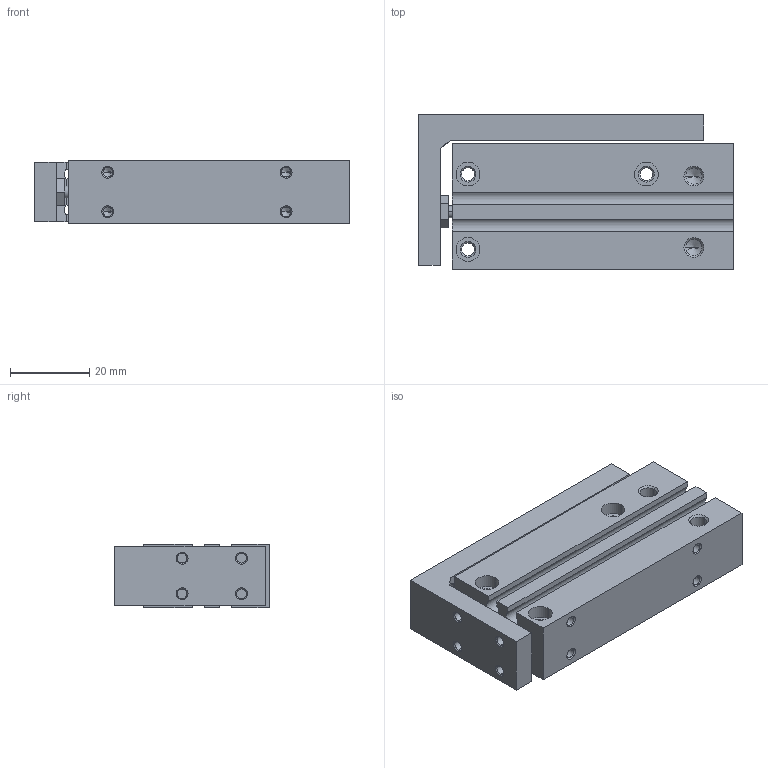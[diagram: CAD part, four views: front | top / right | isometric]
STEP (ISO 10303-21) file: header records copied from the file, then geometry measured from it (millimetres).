
FILE_DESCRIPTION (( 'STEP AP203' ), '1' );
FILE_NAME ('CXH6-40.STEP', '2020-04-16T18:03:41', ( '' ), ( '' ), 'SwSTEP 2.0', 'SolidWorks 2019', '' );
FILE_SCHEMA (( 'CONFIG_CONTROL_DESIGN' ));
Length unit declared in the file: millimetre
Products named in the file (1): CXH6-40
Bounding box: 79.5 x 39 x 16 mm (x, y, z)
Volume: 38313.2 mm3; surface area: 18542.7 mm2
Topology: 2 solids, 2 shells, 216 faces, 515 edges, 298 vertices
Faces by surface type: cone 92, cylinder 80, plane 44
Entity records: 6252 total; most frequent: DIRECTION 1141, CARTESIAN_POINT 1120, ORIENTED_EDGE 974, EDGE_CURVE 487, AXIS2_PLACEMENT_3D 441, VERTEX_POINT 298, EDGE_LOOP 265, VECTOR 259
